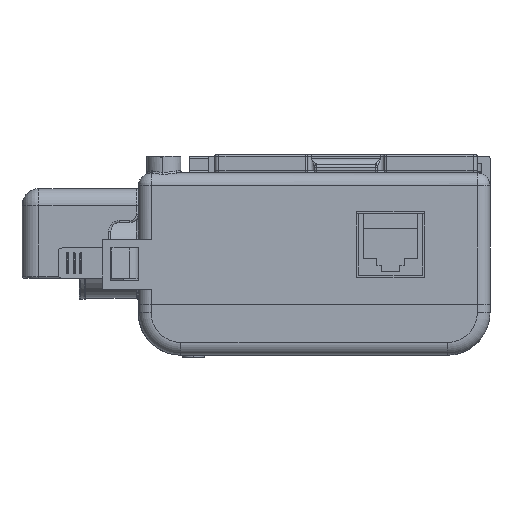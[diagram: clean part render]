
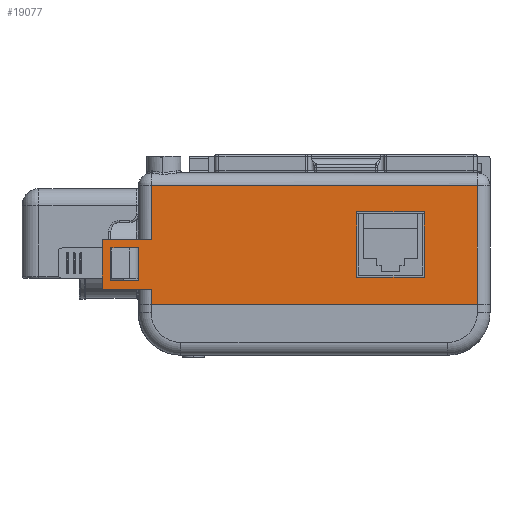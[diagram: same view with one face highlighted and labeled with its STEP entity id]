
A CAD part, left-side view. The second image highlights one B-rep face of the part: STEP entity #19077.
In plain terms, the highlighted planar face has unit normal (-1, 0, 0).
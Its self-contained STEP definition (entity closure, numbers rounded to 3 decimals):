
#40 = CARTESIAN_POINT ( 'NONE',  ( -71., 41.5, -4. ) ) ;
#231 = VECTOR ( 'NONE', #18295, 1000. ) ;
#448 = LINE ( 'NONE', #9197, #9589 ) ;
#1021 = EDGE_CURVE ( 'NONE', #33637, #4797, #40432, .T. ) ;
#1471 = EDGE_CURVE ( 'NONE', #51623, #14485, #16237, .T. ) ;
#1848 = LINE ( 'NONE', #14047, #21142 ) ;
#3107 = DIRECTION ( 'NONE',  ( -1., 0., 0. ) ) ;
#3613 = CARTESIAN_POINT ( 'NONE',  ( -71., -10., -3.1 ) ) ;
#3637 = CARTESIAN_POINT ( 'NONE',  ( -71., -41.5, -21.5 ) ) ;
#3690 = CARTESIAN_POINT ( 'NONE',  ( -71., 38.5, 5.7 ) ) ;
#4123 = EDGE_LOOP ( 'NONE', ( #20194, #38323, #45497, #48952 ) ) ;
#4530 = ORIENTED_EDGE ( 'NONE', *, *, #22901, .F. ) ;
#4797 = VERTEX_POINT ( 'NONE', #42225 ) ;
#5996 = ORIENTED_EDGE ( 'NONE', *, *, #21331, .F. ) ;
#6258 = CARTESIAN_POINT ( 'NONE',  ( -71., -26., -3.1 ) ) ;
#6619 = CARTESIAN_POINT ( 'NONE',  ( -71., 41.5, -4. ) ) ;
#6813 = EDGE_CURVE ( 'NONE', #4797, #14493, #11813, .T. ) ;
#7118 = ORIENTED_EDGE ( 'NONE', *, *, #15474, .F. ) ;
#7360 = FACE_OUTER_BOUND ( 'NONE', #28983, .T. ) ;
#7748 = VECTOR ( 'NONE', #36797, 1000. ) ;
#8248 = CARTESIAN_POINT ( 'NONE',  ( -71., 48., -4. ) ) ;
#9197 = CARTESIAN_POINT ( 'NONE',  ( -71., -10., 12.3 ) ) ;
#9262 = VECTOR ( 'NONE', #22632, 1000. ) ;
#9589 = VECTOR ( 'NONE', #45544, 1000. ) ;
#9679 = EDGE_CURVE ( 'NONE', #11884, #10324, #1848, .T. ) ;
#9871 = VERTEX_POINT ( 'NONE', #40041 ) ;
#10324 = VERTEX_POINT ( 'NONE', #23974 ) ;
#11459 = VERTEX_POINT ( 'NONE', #40 ) ;
#11720 = DIRECTION ( 'NONE',  ( 0., 1., 0. ) ) ;
#11813 = LINE ( 'NONE', #23759, #24402 ) ;
#11833 = VECTOR ( 'NONE', #36668, 1000. ) ;
#11884 = VERTEX_POINT ( 'NONE', #29149 ) ;
#12111 = LINE ( 'NONE', #47430, #29786 ) ;
#12453 = CARTESIAN_POINT ( 'NONE',  ( -71., 41.5, 3.8 ) ) ;
#12810 = VERTEX_POINT ( 'NONE', #39269 ) ;
#13171 = LINE ( 'NONE', #49535, #7748 ) ;
#13401 = EDGE_CURVE ( 'NONE', #14485, #23485, #448, .T. ) ;
#13541 = CARTESIAN_POINT ( 'NONE',  ( -71., -38.5, -9.5 ) ) ;
#13544 = VECTOR ( 'NONE', #11720, 1000. ) ;
#14047 = CARTESIAN_POINT ( 'NONE',  ( -71., 38.5, -5.9 ) ) ;
#14109 = ORIENTED_EDGE ( 'NONE', *, *, #34001, .T. ) ;
#14485 = VERTEX_POINT ( 'NONE', #19298 ) ;
#14493 = VERTEX_POINT ( 'NONE', #27258 ) ;
#14684 = ORIENTED_EDGE ( 'NONE', *, *, #30921, .T. ) ;
#15132 = VERTEX_POINT ( 'NONE', #46016 ) ;
#15214 = CARTESIAN_POINT ( 'NONE',  ( -71., -38.5, 18.5 ) ) ;
#15474 = EDGE_CURVE ( 'NONE', #38385, #9871, #28659, .T. ) ;
#15571 = FACE_BOUND ( 'NONE', #39861, .T. ) ;
#16237 = LINE ( 'NONE', #32431, #48888 ) ;
#17101 = LINE ( 'NONE', #20812, #19387 ) ;
#18030 = LINE ( 'NONE', #13541, #231 ) ;
#18188 = VECTOR ( 'NONE', #31658, 1000. ) ;
#18295 = DIRECTION ( 'NONE',  ( 0., 1., 0. ) ) ;
#19077 = ADVANCED_FACE ( 'NONE', ( #15571, #23805, #7360 ), #39471, .T. ) ;
#19298 = CARTESIAN_POINT ( 'NONE',  ( -71., -10., 12.3 ) ) ;
#19387 = VECTOR ( 'NONE', #33292, 1000. ) ;
#19440 = DIRECTION ( 'NONE',  ( 0., 0., 1. ) ) ;
#20194 = ORIENTED_EDGE ( 'NONE', *, *, #51078, .F. ) ;
#20465 = CARTESIAN_POINT ( 'NONE',  ( -71., 38.5, 18.5 ) ) ;
#20690 = CARTESIAN_POINT ( 'NONE',  ( -71., -38.5, 18.5 ) ) ;
#20812 = CARTESIAN_POINT ( 'NONE',  ( -71., 50., 5.7 ) ) ;
#20837 = VECTOR ( 'NONE', #32194, 1000. ) ;
#21142 = VECTOR ( 'NONE', #37954, 1000. ) ;
#21331 = EDGE_CURVE ( 'NONE', #10324, #15132, #27908, .T. ) ;
#21619 = EDGE_CURVE ( 'NONE', #22963, #51623, #38103, .T. ) ;
#22424 = DIRECTION ( 'NONE',  ( 0., 1., 0. ) ) ;
#22632 = DIRECTION ( 'NONE',  ( 0., 0., 1. ) ) ;
#22901 = EDGE_CURVE ( 'NONE', #15132, #52377, #17101, .T. ) ;
#22963 = VERTEX_POINT ( 'NONE', #46536 ) ;
#23054 = DIRECTION ( 'NONE',  ( 0., 0., 1. ) ) ;
#23485 = VERTEX_POINT ( 'NONE', #48247 ) ;
#23759 = CARTESIAN_POINT ( 'NONE',  ( -71., 48., 3.8 ) ) ;
#23805 = FACE_BOUND ( 'NONE', #4123, .T. ) ;
#23974 = CARTESIAN_POINT ( 'NONE',  ( -71., 50., -5.9 ) ) ;
#24338 = ORIENTED_EDGE ( 'NONE', *, *, #42301, .T. ) ;
#24402 = VECTOR ( 'NONE', #40215, 1000. ) ;
#24447 = LINE ( 'NONE', #20465, #11833 ) ;
#27258 = CARTESIAN_POINT ( 'NONE',  ( -71., 48., -4. ) ) ;
#27908 = LINE ( 'NONE', #39351, #9262 ) ;
#28285 = DIRECTION ( 'NONE',  ( 0., 0., -1. ) ) ;
#28659 = LINE ( 'NONE', #20690, #18188 ) ;
#28983 = EDGE_LOOP ( 'NONE', ( #47381, #29971, #48754, #7118, #14684, #24338, #4530, #5996 ) ) ;
#29149 = CARTESIAN_POINT ( 'NONE',  ( -71., 38.5, -5.9 ) ) ;
#29316 = ORIENTED_EDGE ( 'NONE', *, *, #21619, .T. ) ;
#29786 = VECTOR ( 'NONE', #28285, 1000. ) ;
#29971 = ORIENTED_EDGE ( 'NONE', *, *, #33967, .T. ) ;
#30796 = VECTOR ( 'NONE', #36909, 1000. ) ;
#30921 = EDGE_CURVE ( 'NONE', #38385, #12810, #48080, .T. ) ;
#31658 = DIRECTION ( 'NONE',  ( 0., 0., -1. ) ) ;
#32194 = DIRECTION ( 'NONE',  ( 0., 1., 0. ) ) ;
#32431 = CARTESIAN_POINT ( 'NONE',  ( -71., -10., -3.1 ) ) ;
#33292 = DIRECTION ( 'NONE',  ( 0., -1., 0. ) ) ;
#33637 = VERTEX_POINT ( 'NONE', #12453 ) ;
#33967 = EDGE_CURVE ( 'NONE', #11884, #51474, #12111, .T. ) ;
#34001 = EDGE_CURVE ( 'NONE', #23485, #22963, #13171, .T. ) ;
#36108 = LINE ( 'NONE', #8248, #30796 ) ;
#36668 = DIRECTION ( 'NONE',  ( 0., 0., -1. ) ) ;
#36797 = DIRECTION ( 'NONE',  ( 0., 0., -1. ) ) ;
#36909 = DIRECTION ( 'NONE',  ( 0., -1., 0. ) ) ;
#37954 = DIRECTION ( 'NONE',  ( 0., 1., 0. ) ) ;
#38103 = LINE ( 'NONE', #6258, #43989 ) ;
#38323 = ORIENTED_EDGE ( 'NONE', *, *, #6813, .F. ) ;
#38385 = VERTEX_POINT ( 'NONE', #15214 ) ;
#38675 = EDGE_CURVE ( 'NONE', #11459, #33637, #43487, .T. ) ;
#39269 = CARTESIAN_POINT ( 'NONE',  ( -71., 38.5, 18.5 ) ) ;
#39325 = CARTESIAN_POINT ( 'NONE',  ( -71., -38.5, 18.5 ) ) ;
#39351 = CARTESIAN_POINT ( 'NONE',  ( -71., 50., -5.9 ) ) ;
#39471 = PLANE ( 'NONE',  #48058 ) ;
#39861 = EDGE_LOOP ( 'NONE', ( #40338, #42497, #14109, #29316 ) ) ;
#40041 = CARTESIAN_POINT ( 'NONE',  ( -71., -38.5, -9.5 ) ) ;
#40215 = DIRECTION ( 'NONE',  ( 0., 0., -1. ) ) ;
#40338 = ORIENTED_EDGE ( 'NONE', *, *, #1471, .T. ) ;
#40432 = LINE ( 'NONE', #52367, #20837 ) ;
#42225 = CARTESIAN_POINT ( 'NONE',  ( -71., 48., 3.8 ) ) ;
#42301 = EDGE_CURVE ( 'NONE', #12810, #52377, #24447, .T. ) ;
#42497 = ORIENTED_EDGE ( 'NONE', *, *, #13401, .T. ) ;
#43487 = LINE ( 'NONE', #6619, #51220 ) ;
#43989 = VECTOR ( 'NONE', #22424, 1000. ) ;
#44797 = CARTESIAN_POINT ( 'NONE',  ( -71., 38.5, -9.5 ) ) ;
#45497 = ORIENTED_EDGE ( 'NONE', *, *, #1021, .F. ) ;
#45544 = DIRECTION ( 'NONE',  ( 0., -1., 0. ) ) ;
#46016 = CARTESIAN_POINT ( 'NONE',  ( -71., 50., 5.7 ) ) ;
#46536 = CARTESIAN_POINT ( 'NONE',  ( -71., -26., -3.1 ) ) ;
#47127 = EDGE_CURVE ( 'NONE', #9871, #51474, #18030, .T. ) ;
#47381 = ORIENTED_EDGE ( 'NONE', *, *, #9679, .F. ) ;
#47430 = CARTESIAN_POINT ( 'NONE',  ( -71., 38.5, -5.9 ) ) ;
#48058 = AXIS2_PLACEMENT_3D ( 'NONE', #3637, #3107, #52205 ) ;
#48080 = LINE ( 'NONE', #39325, #13544 ) ;
#48247 = CARTESIAN_POINT ( 'NONE',  ( -71., -26., 12.3 ) ) ;
#48754 = ORIENTED_EDGE ( 'NONE', *, *, #47127, .F. ) ;
#48888 = VECTOR ( 'NONE', #19440, 1000. ) ;
#48952 = ORIENTED_EDGE ( 'NONE', *, *, #38675, .F. ) ;
#49535 = CARTESIAN_POINT ( 'NONE',  ( -71., -26., 12.3 ) ) ;
#51078 = EDGE_CURVE ( 'NONE', #14493, #11459, #36108, .T. ) ;
#51220 = VECTOR ( 'NONE', #23054, 1000. ) ;
#51474 = VERTEX_POINT ( 'NONE', #44797 ) ;
#51623 = VERTEX_POINT ( 'NONE', #3613 ) ;
#52205 = DIRECTION ( 'NONE',  ( 0., 0., 1. ) ) ;
#52367 = CARTESIAN_POINT ( 'NONE',  ( -71., 41.5, 3.8 ) ) ;
#52377 = VERTEX_POINT ( 'NONE', #3690 ) ;
